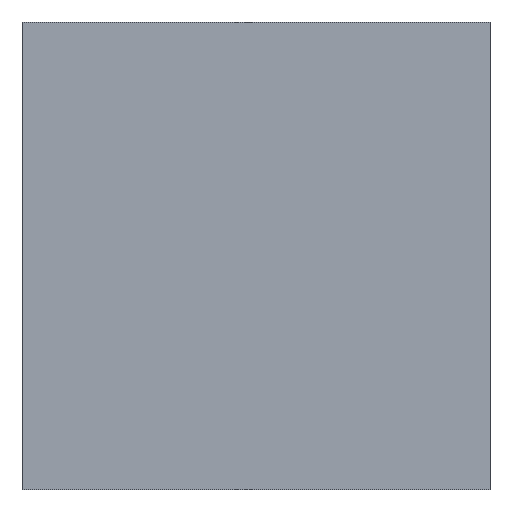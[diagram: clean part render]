
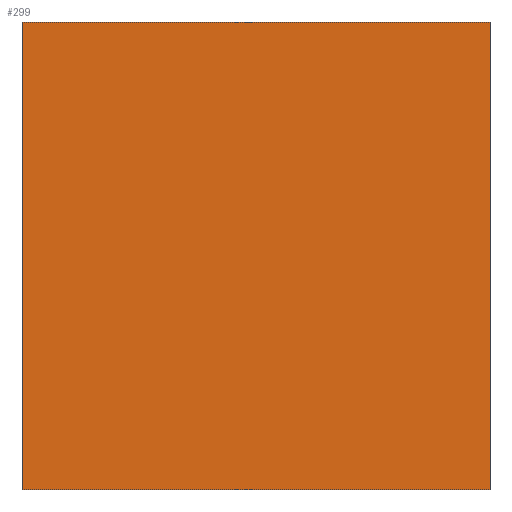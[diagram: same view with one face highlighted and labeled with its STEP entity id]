
A CAD part, left-side view. The second image highlights one B-rep face of the part: STEP entity #299.
In plain terms, the highlighted planar face has unit normal (-1, 0, 0).
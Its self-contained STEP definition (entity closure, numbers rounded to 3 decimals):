
#7 = CARTESIAN_POINT ( 'NONE',  ( -2., 2., 4. ) ) ;
#8 = ORIENTED_EDGE ( 'NONE', *, *, #226, .T. ) ;
#18 = LINE ( 'NONE', #7, #124 ) ;
#35 = PLANE ( 'NONE',  #401 ) ;
#58 = CARTESIAN_POINT ( 'NONE',  ( -2., 2., 0. ) ) ;
#76 = CARTESIAN_POINT ( 'NONE',  ( -2., -2., 0. ) ) ;
#91 = DIRECTION ( 'NONE',  ( 0., -1., 0. ) ) ;
#124 = VECTOR ( 'NONE', #321, 1000. ) ;
#129 = VECTOR ( 'NONE', #398, 1000. ) ;
#133 = EDGE_CURVE ( 'NONE', #200, #371, #369, .T. ) ;
#163 = VERTEX_POINT ( 'NONE', #58 ) ;
#166 = CARTESIAN_POINT ( 'NONE',  ( -2., -2., 4. ) ) ;
#191 = EDGE_CURVE ( 'NONE', #253, #163, #18, .T. ) ;
#200 = VERTEX_POINT ( 'NONE', #365 ) ;
#216 = CARTESIAN_POINT ( 'NONE',  ( -2., -2., 0. ) ) ;
#226 = EDGE_CURVE ( 'NONE', #163, #371, #408, .T. ) ;
#253 = VERTEX_POINT ( 'NONE', #330 ) ;
#288 = DIRECTION ( 'NONE',  ( 0., 0., -1. ) ) ;
#299 = ADVANCED_FACE ( 'NONE', ( #311 ), #35, .F. ) ;
#311 = FACE_OUTER_BOUND ( 'NONE', #469, .T. ) ;
#318 = CARTESIAN_POINT ( 'NONE',  ( -2., -2., 4. ) ) ;
#321 = DIRECTION ( 'NONE',  ( 0., 0., -1. ) ) ;
#330 = CARTESIAN_POINT ( 'NONE',  ( -2., 2., 4. ) ) ;
#339 = CARTESIAN_POINT ( 'NONE',  ( -2., -2., 4. ) ) ;
#340 = ORIENTED_EDGE ( 'NONE', *, *, #133, .F. ) ;
#343 = DIRECTION ( 'NONE',  ( 1., 0., 0. ) ) ;
#365 = CARTESIAN_POINT ( 'NONE',  ( -2., -2., 4. ) ) ;
#368 = VECTOR ( 'NONE', #91, 1000. ) ;
#369 = LINE ( 'NONE', #166, #379 ) ;
#371 = VERTEX_POINT ( 'NONE', #76 ) ;
#379 = VECTOR ( 'NONE', #288, 1000. ) ;
#398 = DIRECTION ( 'NONE',  ( 0., -1., 0. ) ) ;
#401 = AXIS2_PLACEMENT_3D ( 'NONE', #339, #343, #418 ) ;
#408 = LINE ( 'NONE', #216, #368 ) ;
#410 = ORIENTED_EDGE ( 'NONE', *, *, #466, .F. ) ;
#413 = ORIENTED_EDGE ( 'NONE', *, *, #191, .T. ) ;
#418 = DIRECTION ( 'NONE',  ( 0., 0., -1. ) ) ;
#437 = LINE ( 'NONE', #318, #129 ) ;
#466 = EDGE_CURVE ( 'NONE', #253, #200, #437, .T. ) ;
#469 = EDGE_LOOP ( 'NONE', ( #8, #340, #410, #413 ) ) ;
